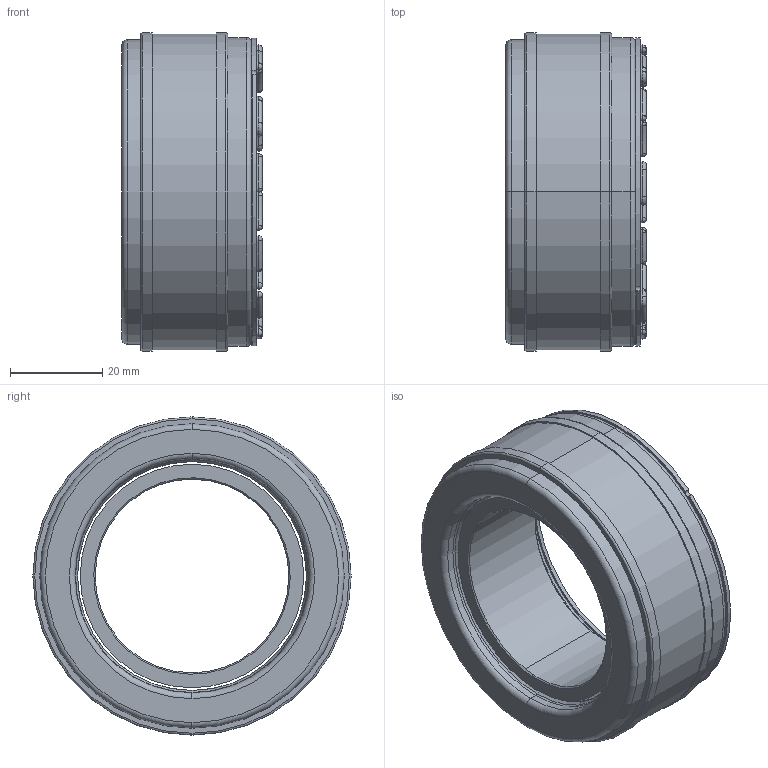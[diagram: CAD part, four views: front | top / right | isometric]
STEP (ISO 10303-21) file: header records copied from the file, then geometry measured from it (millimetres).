
FILE_DESCRIPTION (( 'STEP AP214' ), '1' );
FILE_NAME ('E-00107634.01.step', '2019-07-16T07:34:08', ( 'Admin' ), ( 'Microsoft' ), 'SwSTEP 2.0', 'SolidWorks 2018', '' );
FILE_SCHEMA (( 'AUTOMOTIVE_DESIGN' ));
Length unit declared in the file: millimetre
Products named in the file (4): E-00122177; E-00008095; E-00106179_ohne 12 PIN STD; E-00107634.01
Assembly tree (3 placements, depth 2):
  E-00107634.01
    E-00106179_ohne 12 PIN STD
    E-00008095
    E-00122177
Bounding box: 30.5 x 69 x 69 mm (x, y, z)
Volume: 57811.1 mm3; surface area: 24256.4 mm2
Topology: 3 solids, 3 shells, 1124 faces, 2488 edges, 1622 vertices
Faces by surface type: cylinder 570, plane 459, torus 87, cone 8
Entity records: 41862 total; most frequent: DIRECTION 6124, CARTESIAN_POINT 5282, ORIENTED_EDGE 4976, AXIS2_PLACEMENT_3D 2510, EDGE_CURVE 2488, VERTEX_POINT 1622, EDGE_LOOP 1388, CIRCLE 1380
